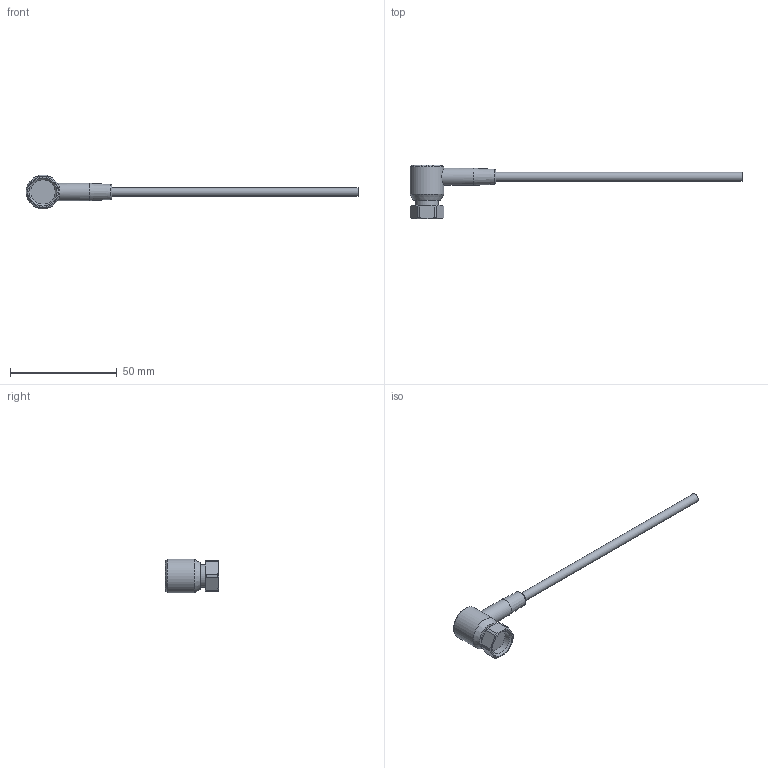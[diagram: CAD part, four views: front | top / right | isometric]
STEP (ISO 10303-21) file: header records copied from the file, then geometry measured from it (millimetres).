
FILE_DESCRIPTION(/* description */ (''),/* implementation_level */ '2;1');
FILE_NAME(/* name */ 'C:\Users\jfriend\Desktop\----Step files\Meredith Christman\607A11\607A11.stp',/* time_stamp */ '2019-12-11T10:32:54-05:00',/* author */ ('jfriend'),/* organization */ (''),/* preprocessor_version */ 'ST-DEVELOPER v17',/* originating_system */ 'Autodesk Inventor 2019',/* authorisation */ '');
FILE_SCHEMA (('AUTOMOTIVE_DESIGN { 1 0 10303 214 3 1 1 }'));
Length unit declared in the file: inch
Products named in the file (1): 607A11 ENVELOPE
Bounding box: 155.36 x 24.92 x 15.88 mm (x, y, z)
Volume: 6711.6 mm3; surface area: 4046.9 mm2
Topology: 1 solids, 1 shells, 46 faces, 113 edges, 73 vertices
Faces by surface type: cone 19, cylinder 13, plane 13, torus 1
Full cylindrical faces by diameter (mm): 4.064 x1, 8.128 x1, 10.521 x1, 10.719 x1, 11.379 x1, 11.481 x1, 15.875 x1
Entity records: 1484 total; most frequent: CARTESIAN_POINT 317, DIRECTION 237, ORIENTED_EDGE 226, EDGE_CURVE 113, AXIS2_PLACEMENT_3D 105, VERTEX_POINT 73, CIRCLE 58, EDGE_LOOP 50
